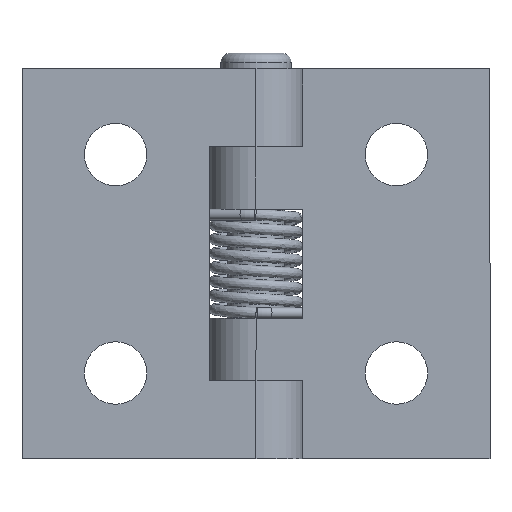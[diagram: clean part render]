
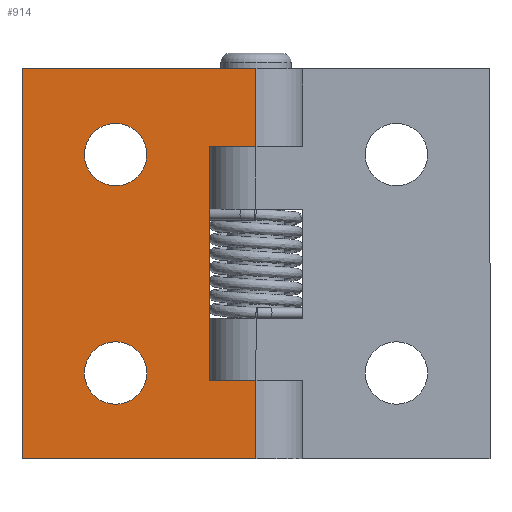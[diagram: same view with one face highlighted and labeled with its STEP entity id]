
A CAD part, front view. The second image highlights one B-rep face of the part: STEP entity #914.
In plain terms, the highlighted planar face has unit normal (0, -1, 0).
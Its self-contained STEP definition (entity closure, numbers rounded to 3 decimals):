
#42=LINE('',#1392,#110);
#47=LINE('',#1404,#115);
#51=LINE('',#1415,#119);
#52=LINE('',#1418,#120);
#64=LINE('',#1448,#132);
#65=LINE('',#1450,#133);
#66=LINE('',#1452,#134);
#67=LINE('',#1453,#135);
#110=VECTOR('',#1104,3.);
#115=VECTOR('',#1113,15.);
#119=VECTOR('',#1123,3.);
#120=VECTOR('',#1126,5.);
#132=VECTOR('',#1156,5.);
#133=VECTOR('',#1157,15.);
#134=VECTOR('',#1158,25.);
#135=VECTOR('',#1159,15.);
#184=PLANE('',#993);
#235=FACE_BOUND('',#340,.T.);
#236=FACE_BOUND('',#341,.T.);
#272=FACE_OUTER_BOUND('',#339,.T.);
#339=EDGE_LOOP('',(#715,#716,#717,#718,#719,#720,#721,#722));
#340=EDGE_LOOP('',(#723));
#341=EDGE_LOOP('',(#724));
#413=CIRCLE('',#971,2.);
#416=CIRCLE('',#976,2.);
#458=VERTEX_POINT('',#1377);
#461=VERTEX_POINT('',#1385);
#462=VERTEX_POINT('',#1388);
#464=VERTEX_POINT('',#1391);
#469=VERTEX_POINT('',#1403);
#471=VERTEX_POINT('',#1408);
#474=VERTEX_POINT('',#1417);
#483=VERTEX_POINT('',#1447);
#484=VERTEX_POINT('',#1449);
#485=VERTEX_POINT('',#1451);
#545=EDGE_CURVE('',#458,#458,#413,.T.);
#548=EDGE_CURVE('',#461,#461,#416,.T.);
#550=EDGE_CURVE('',#464,#462,#42,.T.);
#556=EDGE_CURVE('',#469,#464,#47,.T.);
#562=EDGE_CURVE('',#471,#469,#51,.T.);
#563=EDGE_CURVE('',#474,#471,#52,.T.);
#578=EDGE_CURVE('',#462,#483,#64,.T.);
#579=EDGE_CURVE('',#484,#483,#65,.T.);
#580=EDGE_CURVE('',#485,#484,#66,.T.);
#581=EDGE_CURVE('',#474,#485,#67,.T.);
#715=ORIENTED_EDGE('',*,*,#550,.T.);
#716=ORIENTED_EDGE('',*,*,#578,.T.);
#717=ORIENTED_EDGE('',*,*,#579,.F.);
#718=ORIENTED_EDGE('',*,*,#580,.F.);
#719=ORIENTED_EDGE('',*,*,#581,.F.);
#720=ORIENTED_EDGE('',*,*,#563,.T.);
#721=ORIENTED_EDGE('',*,*,#562,.T.);
#722=ORIENTED_EDGE('',*,*,#556,.T.);
#723=ORIENTED_EDGE('',*,*,#545,.T.);
#724=ORIENTED_EDGE('',*,*,#548,.T.);
#914=ADVANCED_FACE('',(#272,#235,#236),#184,.T.);
#971=AXIS2_PLACEMENT_3D('',#1378,#1088,#1089);
#976=AXIS2_PLACEMENT_3D('',#1386,#1098,#1099);
#993=AXIS2_PLACEMENT_3D('',#1446,#1154,#1155);
#1088=DIRECTION('center_axis',(0.,1.,0.));
#1089=DIRECTION('ref_axis',(-1.,0.,0.));
#1098=DIRECTION('center_axis',(0.,1.,0.));
#1099=DIRECTION('ref_axis',(-1.,0.,0.));
#1104=DIRECTION('',(1.,0.,0.));
#1113=DIRECTION('',(0.,0.,1.));
#1123=DIRECTION('',(-1.,0.,0.));
#1126=DIRECTION('',(0.,0.,1.));
#1154=DIRECTION('center_axis',(0.,-1.,0.));
#1155=DIRECTION('ref_axis',(1.,0.,0.));
#1156=DIRECTION('',(0.,0.,1.));
#1157=DIRECTION('',(1.,0.,0.));
#1158=DIRECTION('',(0.,0.,1.));
#1159=DIRECTION('',(-1.,0.,0.));
#1377=CARTESIAN_POINT('',(-7.,0.,-7.));
#1378=CARTESIAN_POINT('Origin',(-9.,0.,-7.));
#1385=CARTESIAN_POINT('',(-7.,0.,7.));
#1386=CARTESIAN_POINT('Origin',(-9.,0.,7.));
#1388=CARTESIAN_POINT('',(0.,0.,7.5));
#1391=CARTESIAN_POINT('',(-3.,0.,7.5));
#1392=CARTESIAN_POINT('',(-9.,0.,7.5));
#1403=CARTESIAN_POINT('',(-3.,0.,-7.5));
#1404=CARTESIAN_POINT('',(-3.,0.,-3.75));
#1408=CARTESIAN_POINT('',(0.,0.,-7.5));
#1415=CARTESIAN_POINT('',(-5.75,0.,-7.5));
#1417=CARTESIAN_POINT('',(0.,0.,-12.5));
#1418=CARTESIAN_POINT('',(0.,0.,0.));
#1446=CARTESIAN_POINT('Origin',(-15.,0.,0.));
#1447=CARTESIAN_POINT('',(0.,0.,12.5));
#1448=CARTESIAN_POINT('',(0.,0.,0.));
#1449=CARTESIAN_POINT('',(-15.,0.,12.5));
#1450=CARTESIAN_POINT('',(-15.,0.,12.5));
#1451=CARTESIAN_POINT('',(-15.,0.,-12.5));
#1452=CARTESIAN_POINT('',(-15.,0.,0.));
#1453=CARTESIAN_POINT('',(-15.,0.,-12.5));
